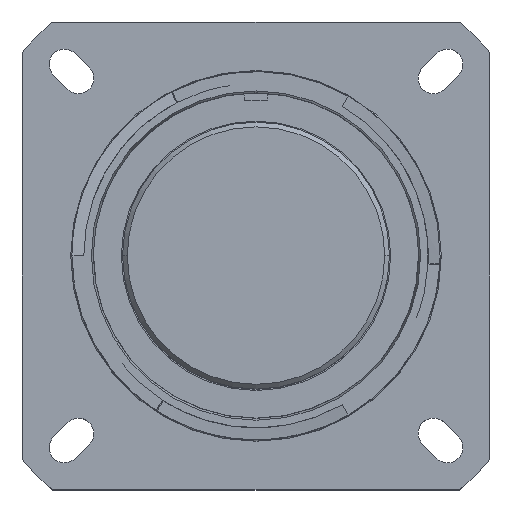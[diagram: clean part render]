
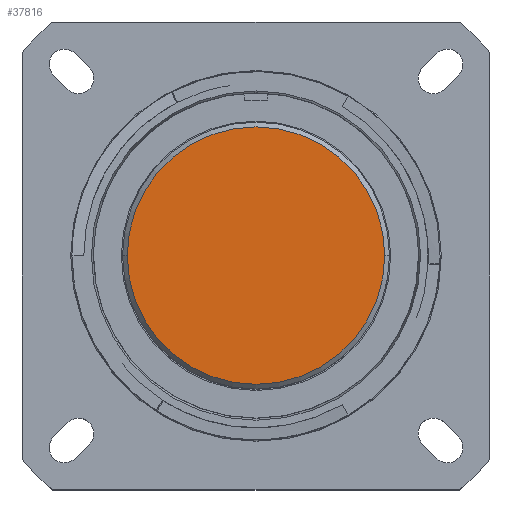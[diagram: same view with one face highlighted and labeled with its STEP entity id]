
A CAD part, top view. The second image highlights one B-rep face of the part: STEP entity #37816.
In plain terms, the highlighted planar face has unit normal (0, 0, 1).
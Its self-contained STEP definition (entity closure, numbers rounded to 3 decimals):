
#3283 = AXIS2_PLACEMENT_3D ( 'NONE', #59352, #14174, #43285 ) ;
#3803 = EDGE_CURVE ( 'NONE', #104097, #93398, #99476, .T. ) ;
#4533 = FACE_OUTER_BOUND ( 'NONE', #24197, .T. ) ;
#14174 = DIRECTION ( 'NONE',  ( 0., 0., 1. ) ) ;
#14917 = ORIENTED_EDGE ( 'NONE', *, *, #65106, .T. ) ;
#20618 = DIRECTION ( 'NONE',  ( 0., 0., 1. ) ) ;
#24197 = EDGE_LOOP ( 'NONE', ( #94054, #14917 ) ) ;
#26120 = CIRCLE ( 'NONE', #3283, 13.767 ) ;
#31873 = DIRECTION ( 'NONE',  ( 1., 0., 0. ) ) ;
#37816 = ADVANCED_FACE ( 'NONE', ( #4533 ), #96118, .T. ) ;
#43285 = DIRECTION ( 'NONE',  ( 1., 0., 0. ) ) ;
#47081 = CARTESIAN_POINT ( 'NONE',  ( -13.767, 0., -0.457 ) ) ;
#54561 = AXIS2_PLACEMENT_3D ( 'NONE', #66412, #113390, #31873 ) ;
#56867 = DIRECTION ( 'NONE',  ( 1., 0., 0. ) ) ;
#59352 = CARTESIAN_POINT ( 'NONE',  ( 0., 0., -0.457 ) ) ;
#65106 = EDGE_CURVE ( 'NONE', #93398, #104097, #26120, .T. ) ;
#66412 = CARTESIAN_POINT ( 'NONE',  ( 0., 0., -0.457 ) ) ;
#93398 = VERTEX_POINT ( 'NONE', #104512 ) ;
#93760 = AXIS2_PLACEMENT_3D ( 'NONE', #102106, #20618, #56867 ) ;
#94054 = ORIENTED_EDGE ( 'NONE', *, *, #3803, .T. ) ;
#96118 = PLANE ( 'NONE',  #54561 ) ;
#99476 = CIRCLE ( 'NONE', #93760, 13.767 ) ;
#102106 = CARTESIAN_POINT ( 'NONE',  ( 0., 0., -0.457 ) ) ;
#104097 = VERTEX_POINT ( 'NONE', #47081 ) ;
#104512 = CARTESIAN_POINT ( 'NONE',  ( 13.767, 0., -0.457 ) ) ;
#113390 = DIRECTION ( 'NONE',  ( 0., 0., 1. ) ) ;
